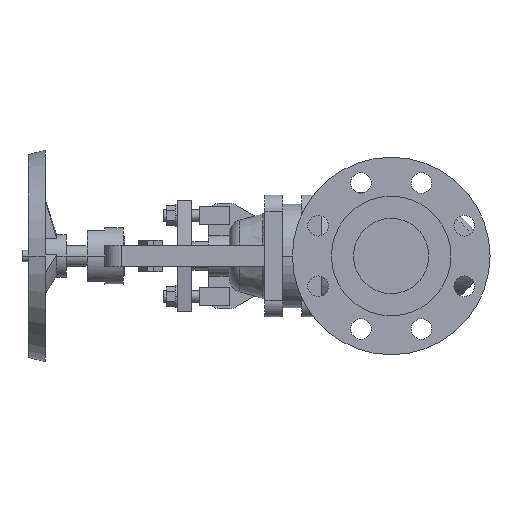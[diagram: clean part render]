
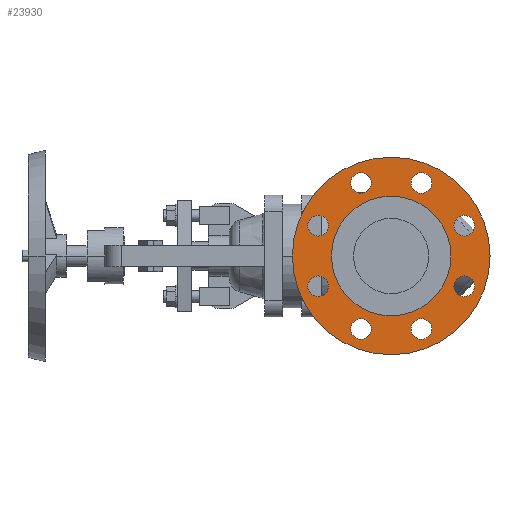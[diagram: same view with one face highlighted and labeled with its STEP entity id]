
A CAD part, left-side view. The second image highlights one B-rep face of the part: STEP entity #23930.
In plain terms, the highlighted planar face has unit normal (-1, 0, 0).
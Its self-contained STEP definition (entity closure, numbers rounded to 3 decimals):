
#4620=CARTESIAN_POINT('',(1.6,0.,-105.));
#4630=VERTEX_POINT('',#4620);
#4790=CARTESIAN_POINT('',(1.6,0.,105.));
#4800=VERTEX_POINT('',#4790);
#4830=CARTESIAN_POINT('',(1.6,0.,0.));
#4840=DIRECTION('',(1.,0.,0.));
#4850=DIRECTION('',(0.,0.,-1.));
#4860=AXIS2_PLACEMENT_3D('',#4830,#4840,#4850);
#4870=CIRCLE('',#4860,105.);
#4880=CARTESIAN_POINT('',(1.6,105.,0.));
#4890=VERTEX_POINT('',#4880);
#4900=EDGE_CURVE('',#4890,#4800,#4870,.T.);
#4920=EDGE_CURVE('',#4630,#4890,#4870,.T.);
#5150=CARTESIAN_POINT('',(1.6,32.145,
-66.606));
#5160=VERTEX_POINT('',#5150);
#5190=CARTESIAN_POINT('',(1.6,32.145,
-77.606));
#5200=DIRECTION('',(-1.,0.,0.));
#5210=DIRECTION('',(0.,0.,-1.));
#5220=AXIS2_PLACEMENT_3D('',#5190,#5200,#5210);
#5230=CIRCLE('',#5220,11.);
#5240=CARTESIAN_POINT('',(1.6,32.145,
-88.606));
#5250=VERTEX_POINT('',#5240);
#5260=EDGE_CURVE('',#5250,#5160,#5230,.T.);
#5640=CARTESIAN_POINT('',(1.6,-32.145,
-88.606));
#5650=VERTEX_POINT('',#5640);
#5680=CARTESIAN_POINT('',(1.6,-32.145,
-77.606));
#5690=DIRECTION('',(-1.,0.,0.));
#5700=DIRECTION('',(0.,0.,-1.));
#5710=AXIS2_PLACEMENT_3D('',#5680,#5690,#5700);
#5720=CIRCLE('',#5710,11.);
#5730=CARTESIAN_POINT('',(1.6,-32.145,
-66.606));
#5740=VERTEX_POINT('',#5730);
#5750=EDGE_CURVE('',#5740,#5650,#5720,.T.);
#6130=CARTESIAN_POINT('',(1.6,77.606,
-43.145));
#6140=VERTEX_POINT('',#6130);
#6300=CARTESIAN_POINT('',(1.6,77.606,
-21.145));
#6310=VERTEX_POINT('',#6300);
#6340=CARTESIAN_POINT('',(1.6,77.606,
-32.145));
#6350=DIRECTION('',(-1.,0.,0.));
#6360=DIRECTION('',(0.,0.,-1.));
#6370=AXIS2_PLACEMENT_3D('',#6340,#6350,#6360);
#6380=CIRCLE('',#6370,11.);
#6390=EDGE_CURVE('',#6140,#6310,#6380,.T.);
#6620=CARTESIAN_POINT('',(1.6,-77.606,
-21.145));
#6630=VERTEX_POINT('',#6620);
#6660=CARTESIAN_POINT('',(1.6,-77.606,
-32.145));
#6670=DIRECTION('',(-1.,0.,0.));
#6680=DIRECTION('',(0.,0.,-1.));
#6690=AXIS2_PLACEMENT_3D('',#6660,#6670,#6680);
#6700=CIRCLE('',#6690,11.);
#6710=CARTESIAN_POINT('',(1.6,-77.606,
-43.145));
#6720=VERTEX_POINT('',#6710);
#6730=EDGE_CURVE('',#6720,#6630,#6700,.T.);
#7110=CARTESIAN_POINT('',(1.6,77.606,
43.145));
#7120=VERTEX_POINT('',#7110);
#7280=CARTESIAN_POINT('',(1.6,77.606,
21.145));
#7290=VERTEX_POINT('',#7280);
#7320=CARTESIAN_POINT('',(1.6,77.606,
32.145));
#7330=DIRECTION('',(-1.,0.,0.));
#7340=DIRECTION('',(0.,0.,-1.));
#7350=AXIS2_PLACEMENT_3D('',#7320,#7330,#7340);
#7360=CIRCLE('',#7350,11.);
#7370=EDGE_CURVE('',#7120,#7290,#7360,.T.);
#7600=CARTESIAN_POINT('',(1.6,-77.606,
21.145));
#7610=VERTEX_POINT('',#7600);
#7640=CARTESIAN_POINT('',(1.6,-77.606,
32.145));
#7650=DIRECTION('',(-1.,0.,0.));
#7660=DIRECTION('',(0.,0.,-1.));
#7670=AXIS2_PLACEMENT_3D('',#7640,#7650,#7660);
#7680=CIRCLE('',#7670,11.);
#7690=CARTESIAN_POINT('',(1.6,-77.606,
43.145));
#7700=VERTEX_POINT('',#7690);
#7710=EDGE_CURVE('',#7700,#7610,#7680,.T.);
#8090=CARTESIAN_POINT('',(1.6,-32.145,
88.606));
#8100=VERTEX_POINT('',#8090);
#8130=CARTESIAN_POINT('',(1.6,-32.145,
77.606));
#8140=DIRECTION('',(-1.,0.,0.));
#8150=DIRECTION('',(0.,0.,-1.));
#8160=AXIS2_PLACEMENT_3D('',#8130,#8140,#8150);
#8170=CIRCLE('',#8160,11.);
#8180=CARTESIAN_POINT('',(1.6,-32.145,
66.606));
#8190=VERTEX_POINT('',#8180);
#8200=EDGE_CURVE('',#8190,#8100,#8170,.T.);
#8580=CARTESIAN_POINT('',(1.6,32.145,
88.606));
#8590=VERTEX_POINT('',#8580);
#8750=CARTESIAN_POINT('',(1.6,32.145,
66.606));
#8760=VERTEX_POINT('',#8750);
#8790=CARTESIAN_POINT('',(1.6,32.145,
77.606));
#8800=DIRECTION('',(-1.,0.,0.));
#8810=DIRECTION('',(0.,0.,-1.));
#8820=AXIS2_PLACEMENT_3D('',#8790,#8800,#8810);
#8830=CIRCLE('',#8820,11.);
#8840=EDGE_CURVE('',#8590,#8760,#8830,.T.);
#9070=CARTESIAN_POINT('',(1.6,63.5,0.));
#9080=VERTEX_POINT('',#9070);
#9110=CARTESIAN_POINT('',(1.6,0.,0.));
#9120=DIRECTION('',(-1.,0.,0.));
#9130=DIRECTION('',(0.,1.,0.));
#9140=AXIS2_PLACEMENT_3D('',#9110,#9120,#9130);
#9150=CIRCLE('',#9140,63.5);
#9160=CARTESIAN_POINT('',(1.6,-63.5,0.));
#9170=VERTEX_POINT('',#9160);
#9180=EDGE_CURVE('',#9170,#9080,#9150,.T.);
#23370=CARTESIAN_POINT('',(1.6,84.25,0.)
);
#23380=DIRECTION('',(1.,0.,0.));
#23390=DIRECTION('',(0.,-1.,0.));
#23400=AXIS2_PLACEMENT_3D('',#23370,#23380,#23390);
#23410=PLANE('',#23400);
#23420=ORIENTED_EDGE('',*,*,#9180,.F.);
#23430=EDGE_CURVE('',#9080,#9170,#9150,.T.);
#23440=ORIENTED_EDGE('',*,*,#23430,.F.);
#23450=EDGE_LOOP('',(#23440,#23420));
#23460=FACE_BOUND('',#23450,.T.);
#23470=ORIENTED_EDGE('',*,*,#4900,.F.);
#23480=EDGE_CURVE('',#4800,#4630,#4870,.T.);
#23490=ORIENTED_EDGE('',*,*,#23480,.F.);
#23500=ORIENTED_EDGE('',*,*,#4920,.F.);
#23510=EDGE_LOOP('',(#23500,#23490,#23470));
#23520=FACE_OUTER_BOUND('',#23510,.T.);
#23530=ORIENTED_EDGE('',*,*,#5260,.F.);
#23540=EDGE_CURVE('',#5160,#5250,#5230,.T.);
#23550=ORIENTED_EDGE('',*,*,#23540,.F.);
#23560=EDGE_LOOP('',(#23550,#23530));
#23570=FACE_BOUND('',#23560,.T.);
#23580=EDGE_CURVE('',#5650,#5740,#5720,.T.);
#23590=ORIENTED_EDGE('',*,*,#23580,.F.);
#23600=ORIENTED_EDGE('',*,*,#5750,.F.);
#23610=EDGE_LOOP('',(#23600,#23590));
#23620=FACE_BOUND('',#23610,.T.);
#23630=EDGE_CURVE('',#6310,#6140,#6380,.T.);
#23640=ORIENTED_EDGE('',*,*,#23630,.F.);
#23650=ORIENTED_EDGE('',*,*,#6390,.F.);
#23660=EDGE_LOOP('',(#23650,#23640));
#23670=FACE_BOUND('',#23660,.T.);
#23680=EDGE_CURVE('',#6630,#6720,#6700,.T.);
#23690=ORIENTED_EDGE('',*,*,#23680,.F.);
#23700=ORIENTED_EDGE('',*,*,#6730,.F.);
#23710=EDGE_LOOP('',(#23700,#23690));
#23720=FACE_BOUND('',#23710,.T.);
#23730=EDGE_CURVE('',#7290,#7120,#7360,.T.);
#23740=ORIENTED_EDGE('',*,*,#23730,.F.);
#23750=ORIENTED_EDGE('',*,*,#7370,.F.);
#23760=EDGE_LOOP('',(#23750,#23740));
#23770=FACE_BOUND('',#23760,.T.);
#23780=ORIENTED_EDGE('',*,*,#7710,.F.);
#23790=EDGE_CURVE('',#7610,#7700,#7680,.T.);
#23800=ORIENTED_EDGE('',*,*,#23790,.F.);
#23810=EDGE_LOOP('',(#23800,#23780));
#23820=FACE_BOUND('',#23810,.T.);
#23830=ORIENTED_EDGE('',*,*,#8200,.F.);
#23840=EDGE_CURVE('',#8100,#8190,#8170,.T.);
#23850=ORIENTED_EDGE('',*,*,#23840,.F.);
#23860=EDGE_LOOP('',(#23850,#23830));
#23870=FACE_BOUND('',#23860,.T.);
#23880=EDGE_CURVE('',#8760,#8590,#8830,.T.);
#23890=ORIENTED_EDGE('',*,*,#23880,.F.);
#23900=ORIENTED_EDGE('',*,*,#8840,.F.);
#23910=EDGE_LOOP('',(#23900,#23890));
#23920=FACE_BOUND('',#23910,.T.);
#23930=ADVANCED_FACE('',(#23460,#23520,#23570,#23620,#23670,#23720,
#23770,#23820,#23870,#23920),#23410,.F.);
